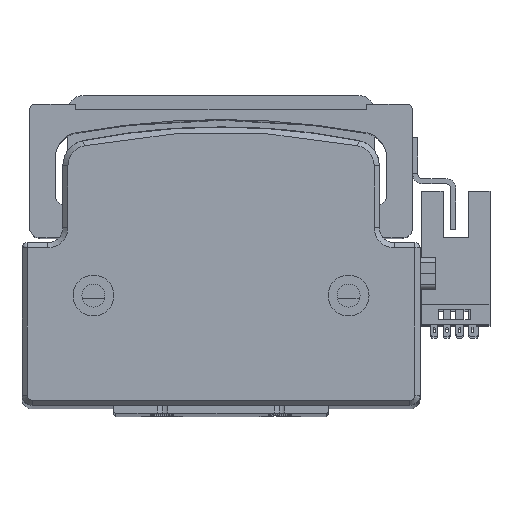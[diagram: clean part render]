
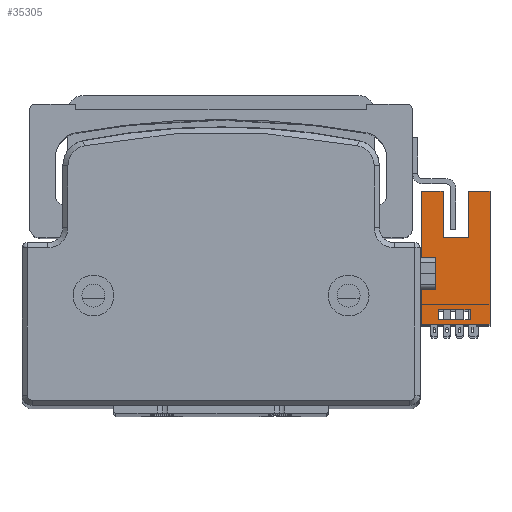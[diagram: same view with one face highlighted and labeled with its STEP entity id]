
A CAD part, top view. The second image highlights one B-rep face of the part: STEP entity #35305.
In plain terms, the highlighted planar face has unit normal (0, 0, 1) as drawn and (-1, 0, 0) by its records, which use the part's own axes.
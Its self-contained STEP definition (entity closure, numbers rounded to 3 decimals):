
#43 = CARTESIAN_POINT ( 'NONE',  ( -3.2, 3.85, 22.2 ) ) ;
#68 = LINE ( 'NONE', #527, #8452 ) ;
#402 = CARTESIAN_POINT ( 'NONE',  ( -3.2, 2.35, 13.2 ) ) ;
#527 = CARTESIAN_POINT ( 'NONE',  ( -3.2, -2.934, -1. ) ) ;
#630 = DIRECTION ( 'NONE',  ( 0., -1., 0. ) ) ;
#790 = DIRECTION ( 'NONE',  ( 0., -1., 0. ) ) ;
#894 = ORIENTED_EDGE ( 'NONE', *, *, #16533, .T. ) ;
#1146 = VERTEX_POINT ( 'NONE', #14635 ) ;
#1194 = CARTESIAN_POINT ( 'NONE',  ( -3.2, 3.159, -1. ) ) ;
#1201 = VERTEX_POINT ( 'NONE', #7376 ) ;
#1981 = ORIENTED_EDGE ( 'NONE', *, *, #43985, .T. ) ;
#2187 = ORIENTED_EDGE ( 'NONE', *, *, #41928, .F. ) ;
#2426 = DIRECTION ( 'NONE',  ( 0., -1., 0. ) ) ;
#2789 = VERTEX_POINT ( 'NONE', #38970 ) ;
#3516 = VECTOR ( 'NONE', #32621, 1000. ) ;
#3524 = EDGE_CURVE ( 'NONE', #43782, #2789, #35171, .T. ) ;
#4702 = ORIENTED_EDGE ( 'NONE', *, *, #43295, .F. ) ;
#4807 = DIRECTION ( 'NONE',  ( 0., 1., 0. ) ) ;
#4853 = DIRECTION ( 'NONE',  ( 0., 0., -1. ) ) ;
#4937 = FACE_OUTER_BOUND ( 'NONE', #24640, .T. ) ;
#5496 = DIRECTION ( 'NONE',  ( 0., 0., -1. ) ) ;
#5962 = CARTESIAN_POINT ( 'NONE',  ( -3.2, 3.159, -1. ) ) ;
#6054 = VECTOR ( 'NONE', #4853, 1000. ) ;
#6513 = LINE ( 'NONE', #33825, #33669 ) ;
#7011 = LINE ( 'NONE', #14927, #24696 ) ;
#7065 = EDGE_CURVE ( 'NONE', #1146, #12701, #38618, .T. ) ;
#7376 = CARTESIAN_POINT ( 'NONE',  ( -3.2, -2.934, -1. ) ) ;
#7415 = EDGE_CURVE ( 'NONE', #38497, #29979, #10304, .T. ) ;
#7467 = CARTESIAN_POINT ( 'NONE',  ( -3.2, 2.35, 13.2 ) ) ;
#7827 = VECTOR ( 'NONE', #11381, 1000. ) ;
#8395 = CARTESIAN_POINT ( 'NONE',  ( -3.2, 6.55, 0. ) ) ;
#8421 = CARTESIAN_POINT ( 'NONE',  ( -3.2, -2.934, -3. ) ) ;
#8452 = VECTOR ( 'NONE', #29528, 1000. ) ;
#8778 = EDGE_CURVE ( 'NONE', #12701, #29979, #6513, .T. ) ;
#8963 = LINE ( 'NONE', #21903, #7827 ) ;
#8992 = ORIENTED_EDGE ( 'NONE', *, *, #12567, .T. ) ;
#9201 = CARTESIAN_POINT ( 'NONE',  ( -3.2, 3.85, 0. ) ) ;
#10066 = VECTOR ( 'NONE', #2426, 1000. ) ;
#10304 = LINE ( 'NONE', #13194, #38579 ) ;
#10554 = EDGE_CURVE ( 'NONE', #27350, #42012, #17971, .T. ) ;
#10686 = CARTESIAN_POINT ( 'NONE',  ( -3.2, 3.159, -1. ) ) ;
#11381 = DIRECTION ( 'NONE',  ( 0., -1., 0. ) ) ;
#11966 = CARTESIAN_POINT ( 'NONE',  ( -3.2, 3.85, 3. ) ) ;
#12567 = EDGE_CURVE ( 'NONE', #27350, #1146, #34312, .T. ) ;
#12701 = VERTEX_POINT ( 'NONE', #23541 ) ;
#13152 = CARTESIAN_POINT ( 'NONE',  ( -3.2, -6.85, 22.2 ) ) ;
#13194 = CARTESIAN_POINT ( 'NONE',  ( -3.2, 3.85, 3. ) ) ;
#13265 = ORIENTED_EDGE ( 'NONE', *, *, #17542, .F. ) ;
#13384 = CARTESIAN_POINT ( 'NONE',  ( -3.2, 2.35, 22.2 ) ) ;
#14635 = CARTESIAN_POINT ( 'NONE',  ( -3.2, 6.55, 9.2 ) ) ;
#14677 = ORIENTED_EDGE ( 'NONE', *, *, #8778, .T. ) ;
#14780 = ORIENTED_EDGE ( 'NONE', *, *, #7065, .T. ) ;
#14927 = CARTESIAN_POINT ( 'NONE',  ( -3.2, -2.65, 13.2 ) ) ;
#15230 = ORIENTED_EDGE ( 'NONE', *, *, #3524, .F. ) ;
#16120 = PLANE ( 'NONE',  #28219 ) ;
#16533 = EDGE_CURVE ( 'NONE', #32253, #31349, #24556, .T. ) ;
#16665 = ORIENTED_EDGE ( 'NONE', *, *, #37685, .T. ) ;
#17091 = LINE ( 'NONE', #5962, #27682 ) ;
#17542 = EDGE_CURVE ( 'NONE', #20751, #34369, #39436, .T. ) ;
#17971 = LINE ( 'NONE', #43, #26296 ) ;
#18232 = DIRECTION ( 'NONE',  ( 0., 0., 1. ) ) ;
#19070 = CARTESIAN_POINT ( 'NONE',  ( -3.2, 6.55, 0. ) ) ;
#19358 = LINE ( 'NONE', #41091, #45443 ) ;
#19403 = CARTESIAN_POINT ( 'NONE',  ( -3.2, 6.55, 3. ) ) ;
#19791 = DIRECTION ( 'NONE',  ( -1., 0., 0. ) ) ;
#20599 = VECTOR ( 'NONE', #4807, 1000. ) ;
#20751 = VERTEX_POINT ( 'NONE', #36191 ) ;
#21903 = CARTESIAN_POINT ( 'NONE',  ( -3.2, 3.85, 22.2 ) ) ;
#22040 = EDGE_CURVE ( 'NONE', #31192, #31349, #19358, .T. ) ;
#22052 = DIRECTION ( 'NONE',  ( 0., 0., 1. ) ) ;
#23541 = CARTESIAN_POINT ( 'NONE',  ( -3.2, 3.85, 9.2 ) ) ;
#24556 = LINE ( 'NONE', #35909, #3516 ) ;
#24571 = VECTOR ( 'NONE', #630, 1000. ) ;
#24640 = EDGE_LOOP ( 'NONE', ( #4702, #15230, #16665, #42400, #8992, #14780, #14677, #40662, #1981, #894, #35785, #44259 ) ) ;
#24696 = VECTOR ( 'NONE', #22052, 1000. ) ;
#24826 = DIRECTION ( 'NONE',  ( 0., -1., 0. ) ) ;
#25284 = EDGE_CURVE ( 'NONE', #1201, #37544, #39503, .T. ) ;
#25444 = CARTESIAN_POINT ( 'NONE',  ( -3.2, -6.85, 9.2 ) ) ;
#26296 = VECTOR ( 'NONE', #24826, 1000. ) ;
#26958 = DIRECTION ( 'NONE',  ( 0., 0., -1. ) ) ;
#27225 = CARTESIAN_POINT ( 'NONE',  ( -3.2, 3.159, -3. ) ) ;
#27350 = VERTEX_POINT ( 'NONE', #40527 ) ;
#27682 = VECTOR ( 'NONE', #34305, 1000. ) ;
#28219 = AXIS2_PLACEMENT_3D ( 'NONE', #9201, #19791, #44623 ) ;
#28464 = CARTESIAN_POINT ( 'NONE',  ( -3.2, -6.85, -3.8 ) ) ;
#28943 = VERTEX_POINT ( 'NONE', #39788 ) ;
#29044 = ORIENTED_EDGE ( 'NONE', *, *, #25284, .F. ) ;
#29158 = VECTOR ( 'NONE', #790, 1000. ) ;
#29429 = EDGE_CURVE ( 'NONE', #34369, #1201, #68, .T. ) ;
#29528 = DIRECTION ( 'NONE',  ( 0., 0., 1. ) ) ;
#29855 = EDGE_CURVE ( 'NONE', #28943, #31192, #8963, .T. ) ;
#29979 = VERTEX_POINT ( 'NONE', #11966 ) ;
#31192 = VERTEX_POINT ( 'NONE', #13152 ) ;
#31349 = VERTEX_POINT ( 'NONE', #28464 ) ;
#31935 = EDGE_LOOP ( 'NONE', ( #2187, #29044, #32424, #13265 ) ) ;
#32253 = VERTEX_POINT ( 'NONE', #45853 ) ;
#32424 = ORIENTED_EDGE ( 'NONE', *, *, #29429, .F. ) ;
#32621 = DIRECTION ( 'NONE',  ( 0., -1., 0. ) ) ;
#33208 = FACE_BOUND ( 'NONE', #31935, .T. ) ;
#33593 = VECTOR ( 'NONE', #18232, 1000. ) ;
#33669 = VECTOR ( 'NONE', #5496, 1000. ) ;
#33825 = CARTESIAN_POINT ( 'NONE',  ( -3.2, 3.85, 0. ) ) ;
#34305 = DIRECTION ( 'NONE',  ( 0., 0., -1. ) ) ;
#34312 = LINE ( 'NONE', #19070, #6054 ) ;
#34369 = VERTEX_POINT ( 'NONE', #8421 ) ;
#34414 = DIRECTION ( 'NONE',  ( 0., -1., 0. ) ) ;
#35171 = LINE ( 'NONE', #43119, #24571 ) ;
#35305 = ADVANCED_FACE ( 'NONE', ( #4937, #33208 ), #16120, .T. ) ;
#35785 = ORIENTED_EDGE ( 'NONE', *, *, #22040, .F. ) ;
#35909 = CARTESIAN_POINT ( 'NONE',  ( -3.2, 6.55, -3.8 ) ) ;
#36191 = CARTESIAN_POINT ( 'NONE',  ( -3.2, 3.159, -3. ) ) ;
#37544 = VERTEX_POINT ( 'NONE', #10686 ) ;
#37685 = EDGE_CURVE ( 'NONE', #43782, #42012, #43036, .T. ) ;
#38497 = VERTEX_POINT ( 'NONE', #19403 ) ;
#38579 = VECTOR ( 'NONE', #34414, 1000. ) ;
#38618 = LINE ( 'NONE', #25444, #29158 ) ;
#38970 = CARTESIAN_POINT ( 'NONE',  ( -3.2, -2.65, 13.2 ) ) ;
#39436 = LINE ( 'NONE', #27225, #10066 ) ;
#39503 = LINE ( 'NONE', #1194, #20599 ) ;
#39788 = CARTESIAN_POINT ( 'NONE',  ( -3.2, -2.65, 22.2 ) ) ;
#40527 = CARTESIAN_POINT ( 'NONE',  ( -3.2, 6.55, 22.2 ) ) ;
#40662 = ORIENTED_EDGE ( 'NONE', *, *, #7415, .F. ) ;
#41091 = CARTESIAN_POINT ( 'NONE',  ( -3.2, -6.85, 0. ) ) ;
#41282 = VECTOR ( 'NONE', #43818, 1000. ) ;
#41928 = EDGE_CURVE ( 'NONE', #37544, #20751, #17091, .T. ) ;
#42012 = VERTEX_POINT ( 'NONE', #13384 ) ;
#42377 = LINE ( 'NONE', #8395, #41282 ) ;
#42400 = ORIENTED_EDGE ( 'NONE', *, *, #10554, .F. ) ;
#43036 = LINE ( 'NONE', #402, #33593 ) ;
#43119 = CARTESIAN_POINT ( 'NONE',  ( -3.2, 2.35, 13.2 ) ) ;
#43295 = EDGE_CURVE ( 'NONE', #2789, #28943, #7011, .T. ) ;
#43782 = VERTEX_POINT ( 'NONE', #7467 ) ;
#43818 = DIRECTION ( 'NONE',  ( 0., 0., -1. ) ) ;
#43985 = EDGE_CURVE ( 'NONE', #38497, #32253, #42377, .T. ) ;
#44259 = ORIENTED_EDGE ( 'NONE', *, *, #29855, .F. ) ;
#44623 = DIRECTION ( 'NONE',  ( 0., 0., 1. ) ) ;
#45443 = VECTOR ( 'NONE', #26958, 1000. ) ;
#45853 = CARTESIAN_POINT ( 'NONE',  ( -3.2, 6.55, -3.8 ) ) ;
